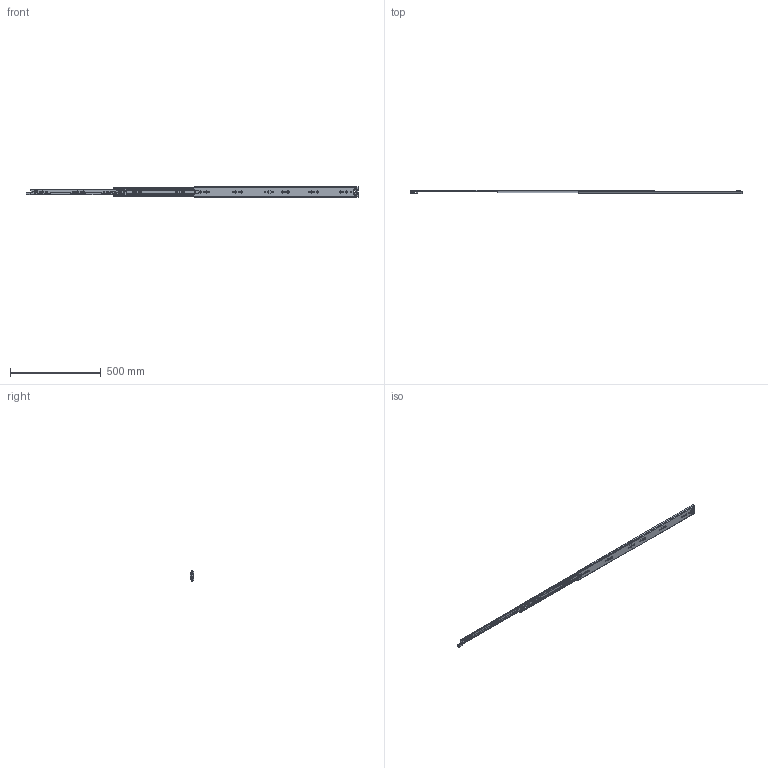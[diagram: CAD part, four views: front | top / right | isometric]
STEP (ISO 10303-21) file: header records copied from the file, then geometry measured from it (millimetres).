
FILE_DESCRIPTION((''),'2;1');
FILE_NAME('KP-57-01ZUZHUANGTU-36_ASM','2023-04-01T',('jishu015'),(''),'PRO/ENGINEER BY PARAMETRIC TECHNOLOGY CORPORATION, 2010280','PRO/ENGINEER BY PARAMETRIC TECHNOLOGY CORPORATION, 2010280','');
FILE_SCHEMA(('CONFIG_CONTROL_DESIGN'));
Products named in the file (22): KP-57-01WEIKE-18________; 1057WEIJIAO________; WAIKE_______ASM; KP-57-01ZHONGGUI-18________; ZHONGGUIPEIJIAN-11______; ZHONGGUISUOKOU-11______; KP-57-01ZHONGGUI-18_________ASM; 1057XIAOZHUJIA________; 1057-5-6GANZHU________; 1057XIAOZHUJIA-14GE_________ASM; KP-57-01NEIGUI-18________; PJ-57-08______; DIAOPIAN-11______; 50XINSUOKOU-1______; TANHUANG______; 1053-3SBANJI122____; JIAO11____; KP-57-01NEIGUI-18_________ASM; 1053ZHUTIAO-175____________; 53-5-6GANZHU____________; 1053ZHUTIAO-175MM_______ASM; KP-57-01ZUZHUANGTU-36_ASM
Assembly tree (100 placements, depth 3):
  KP-57-01ZUZHUANGTU-36_ASM
    WAIKE_______ASM
      KP-57-01WEIKE-18________
      1057WEIJIAO________
    KP-57-01ZHONGGUI-18_________ASM
      KP-57-01ZHONGGUI-18________
      ZHONGGUIPEIJIAN-11______
      ZHONGGUISUOKOU-11______
    1057XIAOZHUJIA-14GE_________ASM
      1057XIAOZHUJIA________
      1057-5-6GANZHU________  x64
    KP-57-01NEIGUI-18_________ASM
      KP-57-01NEIGUI-18________
      PJ-57-08______
      DIAOPIAN-11______
      50XINSUOKOU-1______
      TANHUANG______
      1053-3SBANJI122____
      JIAO11____
    1053ZHUTIAO-175MM_______ASM  x2
      1053ZHUTIAO-175____________
      53-5-6GANZHU____________
Bounding box: 1826.92 x 19 x 57.67 mm (x, y, z)
Volume: 394533.6 mm3; surface area: 430656.3 mm2
Topology: 114 solids, 114 shells, 2804 faces, 8100 edges, 5051 vertices
Faces by surface type: cylinder 1219, plane 1124, sphere 203, bspline 126, cone 84, torus 25, extrusion 23
Entity records: 90247 total; most frequent: CARTESIAN_POINT 22191, ORIENTED_EDGE 14412, DIRECTION 14023, EDGE_CURVE 7206, AXIS2_PLACEMENT_3D 4849, VERTEX_POINT 4655, VECTOR 4325, LINE 4302
